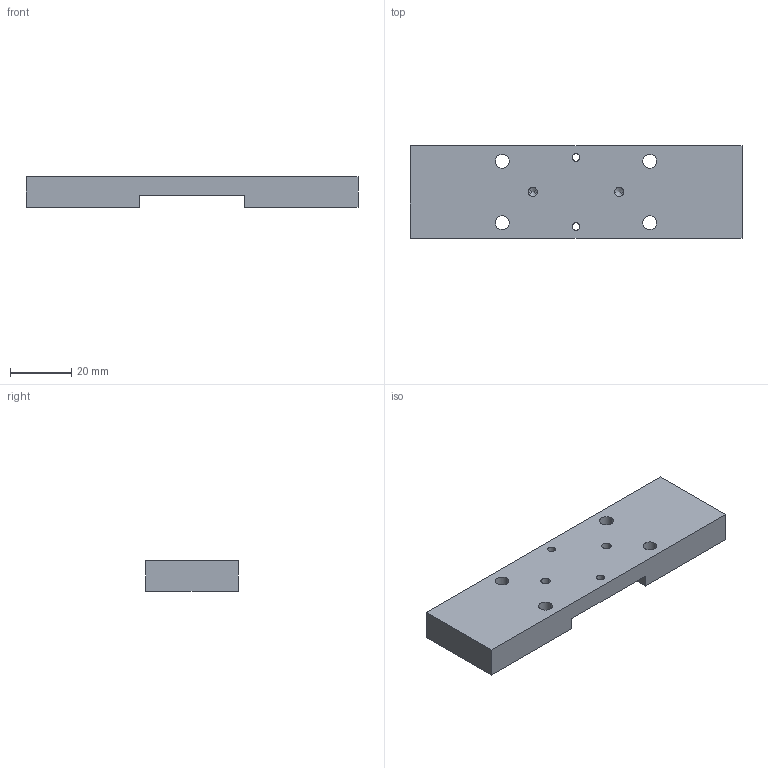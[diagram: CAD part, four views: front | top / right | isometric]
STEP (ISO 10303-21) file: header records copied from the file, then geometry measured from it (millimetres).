
FILE_DESCRIPTION (( 'STEP AP214' ), '1' );
FILE_NAME ('③ロッドブラケット.STEP', '2024-06-25T08:02:35', ( '' ), ( '' ), 'SwSTEP 2.0', 'SolidWorks 2023', '' );
FILE_SCHEMA (( 'AUTOMOTIVE_DESIGN' ));
Length unit declared in the file: millimetre
Products named in the file (1): ③ロッドブラケット
Bounding box: 108 x 30 x 10 mm (x, y, z)
Volume: 26931.5 mm3; surface area: 10015.4 mm2
Topology: 1 solids, 1 shells, 42 faces, 104 edges, 66 vertices
Faces by surface type: cylinder 24, plane 14, cone 4
Entity records: 1283 total; most frequent: DIRECTION 234, CARTESIAN_POINT 209, ORIENTED_EDGE 200, EDGE_CURVE 100, AXIS2_PLACEMENT_3D 91, VERTEX_POINT 66, EDGE_LOOP 60, VECTOR 52
